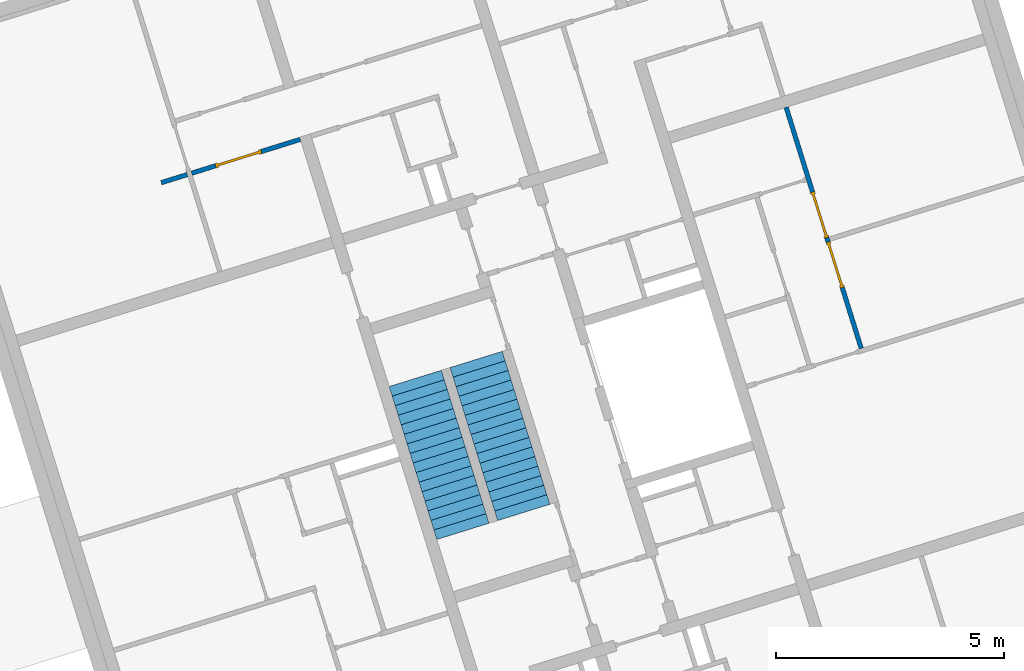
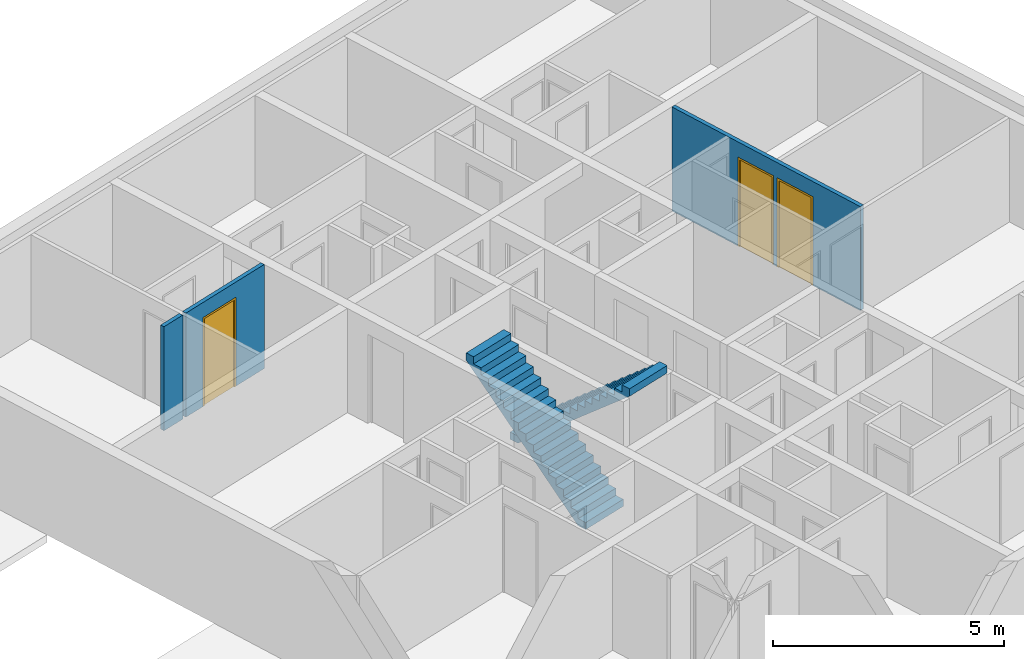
# One storey, part 9 of 9: 3 doors, 2 stair flights, 2 walls, 4 openings, 2 elements without a shape of their own.
"""IFC4 building model written with IfcOpenShell, lengths in metres."""

from ifc_helpers import new_model, entity, si_unit, converted_unit, direction, frame, origin, place, context, subcontext, project, spatial, indexed_curve, outline, extrude, polygons, source, transform, mapped, material, constituent, constituent_set, type_object, type_shapes, element, fill, aggregate, save


model = new_model("IFC4")

# Units and contexts
model_context = context("Model", 3, precision=1e-05, world=origin(), true_north=direction((6.12323399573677e-17, 1.0)))
body_context = subcontext(model_context, "Body", "Model", "MODEL_VIEW")
ifc_project = project(units=[si_unit("LENGTHUNIT", "METRE"), si_unit("AREAUNIT", "SQUARE_METRE"), converted_unit("PLANEANGLEUNIT", "DEGREE", entity("IfcPlaneAngleMeasure", 0.0174532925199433), si_unit("PLANEANGLEUNIT", "RADIAN"), dimensions=[0, 0, 0, 0, 0, 0, 0]), si_unit("VOLUMEUNIT", "CUBIC_METRE")], contexts=[model_context])

# Site, building, storey
site_placement = place(None, frame((13.1347999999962, 11.9886000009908, 0.0), z_axis=(0.0, 0.0, 1.0), x_axis=(0.954770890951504, 0.297342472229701, 0.0)))
site = spatial("IfcSite", under=ifc_project, at=site_placement, Name="Schiehaven", CompositionType="ELEMENT")
building_placement = place(site_placement, origin())
building = spatial("IfcBuilding", under=site, at=building_placement, Name="VORM huis", CompositionType="ELEMENT")
storey_placement = place(building_placement, frame((0.0, 0.0, 15.9)))
storey = spatial("IfcBuildingStorey", under=building, at=storey_placement, Name="05 vijfde verdieping", CompositionType="ELEMENT", Elevation=15.9)

# Wall, openings, door
ifc_material_1 = material(Name="ntb_ntb_ntb", Category="Miscellaneous")
wall_type = type_object("IfcWallType", Name="Basic Wall:22_WA_afbouw_binnenwand 100mm_gen", PredefinedType="STANDARD")
wall_1_placement = place(storey_placement, frame((64.8749999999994, 24.5750000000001, 0.0), z_axis=(0.0, 0.0, 1.0), x_axis=(-1.0, 0.0, 0.0)))
wall_1 = element("IfcWall", 1, at=wall_1_placement, inside=storey, type_object=wall_type, material=ifc_material_1, Name="Binnenwand", ObjectType="Wand", PredefinedType="NOTDEFINED", context=body_context, shape_type="Tessellation", body=[
    polygons([(1.78530300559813e-16, -0.0499999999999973, 2.75), (1.78530300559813e-16, -0.0499999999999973, 0.0), (0.899999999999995, -0.0499999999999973, 0.0), (0.899999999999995, -0.0499999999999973, 2.34999999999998), (1.95, -0.049999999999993, 2.34999999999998), (1.95, -0.049999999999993, 0.0), (2.49999999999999, -0.049999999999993, 0.0), (2.49999999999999, -0.049999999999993, 2.75), (1.69052121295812e-15, 0.0500000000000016, 0.0), (0.899999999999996, 0.0500000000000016, 0.0), (1.69052121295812e-15, 0.0500000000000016, 2.75), (1.95, 0.050000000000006, 2.34999999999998), (1.95, 0.050000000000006, 0.0), (0.899999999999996, 0.0500000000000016, 2.34999999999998), (2.5, 0.050000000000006, 0.0), (2.5, 0.050000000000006, 2.75)], [[[1, 2, 3, 4, 5, 6, 7, 8]], [[2, 9, 10, 3]], [[2, 1, 11, 9]], [[6, 5, 12, 13]], [[4, 3, 10, 14]], [[5, 4, 14, 12]], [[8, 7, 15, 16]], [[11, 1, 8, 16]], [[6, 13, 15, 7]], [[9, 11, 16, 15, 13, 12, 14, 10]]], closed=True),
    polygons([(3.2, 0.0500000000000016, 2.75), (3.2, 0.0500000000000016, 0.0), (2.60000000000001, 0.0500000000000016, 0.0), (2.60000000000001, 0.0500000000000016, 2.75), (3.2, -0.0499999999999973, 2.75), (3.2, -0.0499999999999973, 0.0), (2.60000000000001, -0.0499999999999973, 2.75), (2.60000000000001, -0.0499999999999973, 0.0)], [[[1, 2, 3, 4]], [[5, 6, 2, 1]], [[5, 1, 4, 7]], [[8, 7, 4, 3]], [[2, 6, 8, 3]], [[6, 5, 7, 8]]], closed=True),
])
opening_1_placement = place(storey_placement, frame((64.8749999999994, 24.5750000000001, 0.0), z_axis=(0.0, 0.0, 1.0), x_axis=(-1.0, 0.0, 0.0)))
element("IfcOpeningElement", 2, at=opening_1_placement, cuts=wall_1, Name="Binnenwand:1", PredefinedType="OPENING", context=body_context, shape_type="SweptSolid", body=[
    extrude(outline(indexed_curve([(-1.375, -0.0500000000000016), (1.375, -0.0500000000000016), (1.375, 0.0499999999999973), (-1.375, 0.0499999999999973), (-1.375, -0.0500000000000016)], self_intersect=False)), frame((2.60000000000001, 0.0, 1.375), z_axis=(-1.0, 0.0, 0.0), x_axis=(0.0, 0.0, 1.0)), (0.0, 0.0, 1.0), 0.100000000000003),
])
opening_2_placement = place(wall_1_placement, frame((1.94999999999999, 0.0500000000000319, 0.0)))
opening_2 = element("IfcOpeningElement", 3, at=opening_2_placement, cuts=wall_1, Name="Binnendeur", PredefinedType="OPENING", context=body_context, shape_type="SweptSolid", body=[
    extrude(outline(indexed_curve([(2.34999999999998, 0.0), (2.34999999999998, 1.05), (0.0, 1.05), (0.0, 0.0), (2.34999999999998, 0.0)], self_intersect=False)), frame((0.0, 0.0, 0.0), z_axis=(0.0, -1.0, 0.0), x_axis=(0.0, 0.0, 1.0)), (0.0, 0.0, 1.0), 0.1),
])
ifc_material_2 = material(Name="PD_a_binnenwandopeningen", Category="Miscellaneous")
ifc_constituent_1 = constituent(ifc_material_2, Name="PD_a_binnenwandopeningen", Category="Miscellaneous")
ifc_material_3 = material(Name="metaal_aluminium_ntb", Category="Miscellaneous")
ifc_constituent_2 = constituent(ifc_material_3, Name="metaal_aluminium_ntb", Category="Miscellaneous")
ifc_constituent_set_1 = constituent_set(constituents=[ifc_constituent_1, ifc_constituent_2])
ifc_constituent_3 = constituent(ifc_material_2, Name="PD_a_binnenwandopeningen", Category="Miscellaneous")
ifc_constituent_4 = constituent(ifc_material_3, Name="Panel", Category="Miscellaneous")
ifc_constituent_set_2 = constituent_set(constituents=[ifc_constituent_3, ifc_constituent_4])
door_type = type_object("IfcDoorType", Name="32_DO_binnendeur enkel:binnendeur", OperationType="REVOLVING", PredefinedType="DOOR", material=ifc_constituent_set_2)
shared_shape = source(origin(), body_context, "Body", "SweptSolid", [
    extrude(outline(indexed_curve([(0.475, -1.16249999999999), (0.525, -1.16249999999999), (0.525, 1.18749999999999), (-0.525, 1.18749999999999), (-0.525, -1.16249999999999), (-0.475, -1.16249999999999), (-0.475, 1.13749999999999), (0.475, 1.13749999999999), (0.475, -1.16249999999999)], self_intersect=False)), frame((0.525000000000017, 0.100000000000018, 1.16249999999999), z_axis=(0.0, -1.0, 0.0), x_axis=(1.0, 0.0, 0.0)), (0.0, 0.0, 1.0), 0.1),
    extrude(outline(indexed_curve([(-0.475, -0.025), (0.475, -0.025), (0.475, 0.025), (-0.475, 0.025), (-0.475, -0.025)], self_intersect=False)), frame((0.525000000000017, 0.0499999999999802, 0.0)), (0.0, 0.0, 1.0), 2.29999999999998),
])
type_shapes(door_type, [shared_shape])
door_1_placement = place(opening_2_placement, frame((0.0, 0.0, 0.0), z_axis=(0.0, 0.0, 1.0), x_axis=(-1.0, 0.0, 0.0)))
door_1 = element("IfcDoor", 4, at=door_1_placement, inside=storey, type_object=door_type, material=ifc_constituent_set_1, Name="Binnendeur", ObjectType="Deur", OperationType="REVOLVING", OverallHeight=2.34999999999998, OverallWidth=1.05, PredefinedType="DOOR", context=body_context, shape_type="MappedRepresentation", body=[
    mapped(shared_shape, transform((0.0, 0.0, 0.0), scale=1.0)),
])
fill(opening_2, door_1)

# Wall, openings, doors
wall_2_placement = place(storey_placement, frame((75.2749999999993, 22.075, 0.0), z_axis=(0.0, 0.0, 1.0), x_axis=(0.0, -1.0, 0.0)))
wall_2 = element("IfcWall", 5, at=wall_2_placement, inside=storey, type_object=wall_type, material=ifc_material_1, Name="Binnenwand", ObjectType="Wand", PredefinedType="NOTDEFINED", context=body_context, shape_type="Tessellation", body=[
    polygons([(3.00000000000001, -0.0500000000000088, 0.0), (3.10000000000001, -0.0500000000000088, 0.0), (3.10000000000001, -0.0500000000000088, 2.34999999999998), (4.15000000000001, -0.0500000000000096, 2.34999999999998), (4.15000000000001, -0.0500000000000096, 0.0), (5.55000000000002, -0.0500000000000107, 0.0), (5.55000000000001, -0.0500000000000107, 2.75), (1.70000000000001, -0.0500000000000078, 2.75), (1.60000000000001, -0.0500000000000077, 2.75), (0.0, -0.0500000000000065, 2.75), (0.0, -0.0500000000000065, 0.0), (1.60000000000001, -0.0500000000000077, 0.0), (1.70000000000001, -0.0500000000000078, 0.0), (1.95, -0.050000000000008, 0.0), (1.95000000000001, -0.050000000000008, 2.34999999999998), (3.00000000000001, -0.0500000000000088, 2.34999999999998), (3.10000000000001, 0.0500000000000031, 2.34999999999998), (3.10000000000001, 0.0500000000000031, 0.0), (3.00000000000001, 0.0500000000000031, 0.0), (3.00000000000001, 0.0500000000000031, 2.34999999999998), (1.95000000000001, 0.0500000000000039, 2.34999999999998), (1.95, 0.0500000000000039, 0.0), (0.0, 0.0500000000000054, 0.0), (0.0, 0.0500000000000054, 2.75), (3.00000000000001, 0.0499999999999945, 2.75), (3.10000000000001, 0.0499999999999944, 2.75), (5.55000000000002, 0.0500000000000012, 2.75), (5.55000000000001, 0.0500000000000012, 0.0), (4.15000000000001, 0.0500000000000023, 0.0), (4.15000000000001, 0.0500000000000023, 2.34999999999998)], [[[1, 2, 3, 4, 5, 6, 7, 8, 9, 10, 11, 12, 13, 14, 15, 16]], [[17, 18, 19, 20, 21, 22, 23, 24, 25, 26, 27, 28, 29, 30]], [[11, 23, 22, 14, 13, 12]], [[10, 9, 8, 7, 27, 26, 25, 24]], [[11, 10, 24, 23]], [[16, 20, 19, 1]], [[21, 15, 14, 22]], [[20, 16, 15, 21]], [[7, 6, 28, 27]], [[5, 4, 30, 29]], [[3, 2, 18, 17]], [[4, 3, 17, 30]], [[19, 18, 2, 1]], [[29, 28, 6, 5]]], closed=True),
])
opening_3_placement = place(wall_2_placement, frame((3.0, 0.0500000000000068, 0.0)))
opening_3 = element("IfcOpeningElement", 6, at=opening_3_placement, cuts=wall_2, Name="Binnendeur", PredefinedType="OPENING", context=body_context, shape_type="SweptSolid", body=[
    extrude(outline(indexed_curve([(2.34999999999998, 6.11348705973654e-31), (2.34999999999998, 1.05), (0.0, 1.05), (0.0, 6.11348705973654e-31), (2.34999999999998, 6.11348705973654e-31)], self_intersect=False)), frame((0.0, 0.0, 0.0), z_axis=(0.0, -1.0, 0.0), x_axis=(0.0, 0.0, 1.0)), (0.0, 0.0, 1.0), 0.1),
])
opening_4_placement = place(wall_2_placement, frame((4.15000000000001, 0.0500000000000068, 0.0)))
opening_4 = element("IfcOpeningElement", 7, at=opening_4_placement, cuts=wall_2, Name="Binnendeur", PredefinedType="OPENING", context=body_context, shape_type="SweptSolid", body=[
    extrude(outline(indexed_curve([(2.34999999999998, 1.08286712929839e-15), (2.34999999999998, 1.05), (0.0, 1.05), (0.0, 1.08286712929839e-15), (2.34999999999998, 1.08286712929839e-15)], self_intersect=False)), frame((0.0, 0.0, 0.0), z_axis=(0.0, -1.0, 0.0), x_axis=(0.0, 0.0, 1.0)), (0.0, 0.0, 1.0), 0.1),
])
ifc_constituent_5 = constituent(ifc_material_2, Name="PD_a_binnenwandopeningen", Category="Miscellaneous")
ifc_constituent_6 = constituent(ifc_material_3, Name="metaal_aluminium_ntb", Category="Miscellaneous")
ifc_constituent_set_3 = constituent_set(constituents=[ifc_constituent_5, ifc_constituent_6])
door_2_placement = place(opening_3_placement, frame((0.0, 0.0, 0.0), z_axis=(0.0, 0.0, 1.0), x_axis=(-1.0, 0.0, 0.0)))
door_2 = element("IfcDoor", 8, at=door_2_placement, inside=storey, type_object=door_type, material=ifc_constituent_set_3, Name="Binnendeur", ObjectType="Deur", OperationType="REVOLVING", OverallHeight=2.34999999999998, OverallWidth=1.05, PredefinedType="DOOR", context=body_context, shape_type="MappedRepresentation", body=[
    mapped(shared_shape, transform((0.0, 0.0, 0.0), scale=1.0)),
])
fill(opening_3, door_2)
ifc_constituent_7 = constituent(ifc_material_2, Name="PD_a_binnenwandopeningen", Category="Miscellaneous")
ifc_constituent_8 = constituent(ifc_material_3, Name="metaal_aluminium_ntb", Category="Miscellaneous")
ifc_constituent_set_4 = constituent_set(constituents=[ifc_constituent_7, ifc_constituent_8])
door_3_placement = place(opening_4_placement, frame((0.0, 0.0, 0.0), z_axis=(0.0, 0.0, 1.0), x_axis=(-1.0, 0.0, 0.0)))
door_3 = element("IfcDoor", 9, at=door_3_placement, inside=storey, type_object=door_type, material=ifc_constituent_set_4, Name="Binnendeur", ObjectType="Deur", OperationType="REVOLVING", OverallHeight=2.34999999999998, OverallWidth=1.05, PredefinedType="DOOR", context=body_context, shape_type="MappedRepresentation", body=[
    mapped(shared_shape, transform((0.0, 0.0, 0.0), scale=1.0)),
])
fill(opening_4, door_3)

# Stair, stair flight
stair_type = type_object("IfcStairType", Name="Trap", PredefinedType="STRAIGHT_RUN_STAIR")
stair_1_placement = place(storey_placement, origin())
stair_1 = element("IfcStair", 10, at=stair_1_placement, inside=storey, type_object=stair_type, Name="Hoofdtrap", ObjectType="Precast Stair:NLRS_24_STR_reguliere trap-woonfunctie-breedte 1200mm_gen", PredefinedType="STRAIGHT_RUN_STAIR")
ifc_material_4 = material(Name="beton_gewapend_prefab-element", Category="Miscellaneous")
stair_flight_type = type_object("IfcStairFlightType", Name="Monolithic Run:NLRS_24_STRR_trap-beton prefab-monolithisch-recht_gen_rsf", PredefinedType="STRAIGHT")
stair_flight_1_placement = place(stair_1_placement, frame((65.1250000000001, 15.2899999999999, 0.0)))
stair_flight_1 = element("IfcStairFlight", 11, at=stair_flight_1_placement, type_object=stair_flight_type, material=ifc_material_4, Name="Hoofdtrap Run 1", ObjectType="Monolithic Run:NLRS_24_STRR_trap-beton prefab-monolithisch-recht_gen_rsf", PredefinedType="STRAIGHT", context=body_context, shape_type="Tessellation", body=[
    polygons([(0.0, 0.219999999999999, 0.187500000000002), (0.0, 0.0, 0.187500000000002), (1.2, 0.0, 0.187500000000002), (1.2, 0.219999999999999, 0.187500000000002), (1.2, 0.0, 0.0), (1.2, 0.219999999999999, 0.0), (0.0, 0.0, 0.0), (0.0, 0.219999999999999, 0.0), (0.0, 0.44, 0.374999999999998), (0.0, 0.219999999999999, 0.374999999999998), (1.2, 0.219999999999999, 0.374999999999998), (1.2, 0.44, 0.374999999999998), (1.2, 0.231248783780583, 0.0), (1.2, 0.440000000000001, 0.177912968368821), (0.0, 0.440000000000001, 0.177912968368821), (0.0, 0.231248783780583, 0.0), (0.0, 0.659999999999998, 0.562499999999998), (0.0, 0.44, 0.562499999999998), (1.2, 0.44, 0.562499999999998), (1.2, 0.659999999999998, 0.562499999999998), (1.2, 0.66, 0.365412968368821), (0.0, 0.66, 0.365412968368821), (0.0, 0.879999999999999, 0.750000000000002), (0.0, 0.66, 0.750000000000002), (1.2, 0.66, 0.750000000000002), (1.2, 0.879999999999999, 0.750000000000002), (1.2, 0.880000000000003, 0.552912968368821), (0.0, 0.880000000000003, 0.552912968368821), (0.0, 1.1, 0.937499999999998), (0.0, 0.879999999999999, 0.937499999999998), (1.2, 0.879999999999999, 0.937499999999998), (1.2, 1.1, 0.937499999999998), (1.2, 1.1, 0.740412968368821), (0.0, 1.1, 0.740412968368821), (0.0, 1.32, 1.125), (0.0, 1.1, 1.125), (1.2, 1.1, 1.125), (1.2, 1.32, 1.125), (1.2, 1.32, 0.927912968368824), (0.0, 1.32, 0.927912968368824), (0.0, 1.54, 1.3125), (0.0, 1.32, 1.3125), (1.2, 1.32, 1.3125), (1.2, 1.54, 1.3125), (1.2, 1.54, 1.11541296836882), (0.0, 1.54, 1.11541296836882), (0.0, 1.76, 1.5), (0.0, 1.54, 1.5), (1.2, 1.54, 1.5), (1.2, 1.76, 1.5), (1.2, 1.76000000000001, 1.30291296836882), (0.0, 1.76000000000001, 1.30291296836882), (0.0, 1.98, 1.6875), (0.0, 1.76, 1.6875), (1.2, 1.76, 1.6875), (1.2, 1.98, 1.6875), (1.2, 1.98, 1.49041296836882), (0.0, 1.98, 1.49041296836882), (0.0, 2.2, 1.875), (0.0, 1.98, 1.875), (1.2, 1.98, 1.875), (1.2, 2.2, 1.875), (1.2, 2.2, 1.67791296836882), (0.0, 2.2, 1.67791296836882), (0.0, 2.42, 2.0625), (0.0, 2.2, 2.0625), (1.2, 2.2, 2.0625), (1.2, 2.42, 2.0625), (1.2, 2.42, 1.86541296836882), (0.0, 2.42, 1.86541296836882), (0.0, 2.64, 2.25), (0.0, 2.42, 2.25), (1.2, 2.42, 2.25), (1.2, 2.64, 2.25), (1.2, 2.64, 2.05291296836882), (0.0, 2.64, 2.05291296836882), (0.0, 2.86, 2.4375), (0.0, 2.64, 2.4375), (1.2, 2.64, 2.4375), (1.2, 2.86, 2.4375), (1.2, 2.86, 2.24041296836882), (0.0, 2.86, 2.24041296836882), (0.0, 3.08, 2.625), (0.0, 2.86, 2.625), (1.2, 2.86, 2.625), (1.2, 3.08, 2.625), (1.2, 3.08, 2.42791296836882), (0.0, 3.08, 2.42791296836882), (0.0, 3.3, 2.8125), (0.0, 3.08, 2.8125), (1.2, 3.08, 2.8125), (1.2, 3.3, 2.8125), (1.2, 3.3, 2.61541296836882), (0.0, 3.3, 2.61541296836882), (0.0, 3.52, 3.0), (0.0, 3.3, 3.0), (1.2, 3.3, 3.0), (1.2, 3.52, 3.0), (1.2, 3.52, 2.80291296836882), (0.0, 3.52, 2.80291296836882)], [[[1, 2, 3, 4]], [[4, 3, 5, 6]], [[3, 2, 7, 5]], [[2, 1, 8, 7]], [[9, 10, 11, 12]], [[4, 6, 13, 14, 12, 11]], [[1, 4, 11, 10]], [[8, 1, 10, 9, 15, 16]], [[17, 18, 19, 20]], [[20, 19, 12, 14, 21]], [[9, 12, 19, 18]], [[18, 17, 22, 15, 9]], [[23, 24, 25, 26]], [[26, 25, 20, 21, 27]], [[17, 20, 25, 24]], [[24, 23, 28, 22, 17]], [[29, 30, 31, 32]], [[32, 31, 26, 27, 33]], [[23, 26, 31, 30]], [[30, 29, 34, 28, 23]], [[35, 36, 37, 38]], [[38, 37, 32, 33, 39]], [[29, 32, 37, 36]], [[36, 35, 40, 34, 29]], [[41, 42, 43, 44]], [[44, 43, 38, 39, 45]], [[35, 38, 43, 42]], [[42, 41, 46, 40, 35]], [[47, 48, 49, 50]], [[50, 49, 44, 45, 51]], [[41, 44, 49, 48]], [[48, 47, 52, 46, 41]], [[53, 54, 55, 56]], [[56, 55, 50, 51, 57]], [[47, 50, 55, 54]], [[54, 53, 58, 52, 47]], [[59, 60, 61, 62]], [[62, 61, 56, 57, 63]], [[53, 56, 61, 60]], [[60, 59, 64, 58, 53]], [[65, 66, 67, 68]], [[68, 67, 62, 63, 69]], [[59, 62, 67, 66]], [[66, 65, 70, 64, 59]], [[71, 72, 73, 74]], [[74, 73, 68, 69, 75]], [[65, 68, 73, 72]], [[72, 71, 76, 70, 65]], [[77, 78, 79, 80]], [[80, 79, 74, 75, 81]], [[71, 74, 79, 78]], [[78, 77, 82, 76, 71]], [[83, 84, 85, 86]], [[86, 85, 80, 81, 87]], [[77, 80, 85, 84]], [[84, 83, 88, 82, 77]], [[89, 90, 91, 92]], [[92, 91, 86, 87, 93]], [[83, 86, 91, 90]], [[90, 89, 94, 88, 83]], [[95, 96, 97, 98]], [[98, 97, 92, 93, 99]], [[89, 92, 97, 96]], [[96, 95, 100, 94, 89]], [[95, 98, 99, 100]], [[7, 8, 16, 13, 6, 5]], [[13, 16, 15, 22, 28, 34, 40, 46, 52, 58, 64, 70, 76, 82, 88, 94, 100, 99, 93, 87, 81, 75, 69, 63, 57, 51, 45, 39, 33, 27, 21, 14]]], closed=True),
])
aggregate(stair_1, [stair_flight_1])

stair_2_placement = place(storey_placement, origin())
stair_2 = element("IfcStair", 12, at=stair_2_placement, inside=storey, type_object=stair_type, Name="Hoofdtrap", ObjectType="Precast Stair:NLRS_24_STR_reguliere trap-woonfunctie-breedte 1200mm_gen", PredefinedType="STRAIGHT_RUN_STAIR")
stair_flight_2_placement = place(stair_2_placement, frame((66.5250000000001, 15.2899999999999, 0.0)))
stair_flight_2 = element("IfcStairFlight", 13, at=stair_flight_2_placement, type_object=stair_flight_type, material=ifc_material_4, Name="Hoofdtrap Run 1", ObjectType="Monolithic Run:NLRS_24_STRR_trap-beton prefab-monolithisch-recht_gen_rsf", PredefinedType="STRAIGHT", context=body_context, shape_type="Tessellation", body=[
    polygons([(1.2, 3.3, 0.187500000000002), (1.2, 3.52, 0.187500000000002), (0.0, 3.52, 0.187500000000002), (0.0, 3.3, 0.187500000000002), (0.0, 3.52, 0.0), (0.0, 3.3, 0.0), (1.2, 3.52, 0.0), (1.2, 3.3, 0.0), (1.2, 3.08, 0.374999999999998), (1.2, 3.3, 0.374999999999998), (0.0, 3.3, 0.374999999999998), (0.0, 3.08, 0.374999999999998), (0.0, 3.28875121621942, -1.77635683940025e-15), (0.0, 3.08, 0.177912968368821), (1.2, 3.08, 0.177912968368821), (1.2, 3.28875121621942, -1.77635683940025e-15), (1.2, 2.86, 0.562499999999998), (1.2, 3.08, 0.562499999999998), (0.0, 3.08, 0.562499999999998), (0.0, 2.86, 0.562499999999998), (0.0, 2.86, 0.365412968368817), (1.2, 2.86, 0.365412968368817), (1.2, 2.64, 0.750000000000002), (1.2, 2.86, 0.750000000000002), (0.0, 2.86, 0.750000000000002), (0.0, 2.64, 0.750000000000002), (0.0, 2.64, 0.552912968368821), (1.2, 2.64, 0.552912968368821), (1.2, 2.42, 0.937499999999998), (1.2, 2.64, 0.937499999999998), (0.0, 2.64, 0.937499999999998), (0.0, 2.42, 0.937499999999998), (0.0, 2.42000000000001, 0.740412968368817), (1.2, 2.42000000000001, 0.740412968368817), (1.2, 2.2, 1.125), (1.2, 2.42, 1.125), (0.0, 2.42, 1.125), (0.0, 2.2, 1.125), (0.0, 2.2, 0.927912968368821), (1.2, 2.2, 0.927912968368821), (1.2, 1.98, 1.3125), (1.2, 2.2, 1.3125), (0.0, 2.2, 1.3125), (0.0, 1.98, 1.3125), (0.0, 1.98, 1.11541296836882), (1.2, 1.98, 1.11541296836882), (1.2, 1.76, 1.5), (1.2, 1.98, 1.5), (0.0, 1.98, 1.5), (0.0, 1.76, 1.5), (0.0, 1.76, 1.30291296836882), (1.2, 1.76, 1.30291296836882), (1.2, 1.54, 1.6875), (1.2, 1.76, 1.6875), (0.0, 1.76, 1.6875), (0.0, 1.54, 1.6875), (0.0, 1.54, 1.49041296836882), (1.2, 1.54, 1.49041296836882), (1.2, 1.32, 1.875), (1.2, 1.54, 1.875), (0.0, 1.54, 1.875), (0.0, 1.32, 1.875), (0.0, 1.32, 1.67791296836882), (1.2, 1.32, 1.67791296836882), (1.2, 1.1, 2.0625), (1.2, 1.32, 2.0625), (0.0, 1.32, 2.0625), (0.0, 1.1, 2.0625), (0.0, 1.1, 1.86541296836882), (1.2, 1.1, 1.86541296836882), (1.2, 0.879999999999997, 2.25), (1.2, 1.1, 2.25), (0.0, 1.1, 2.25), (0.0, 0.879999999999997, 2.25), (0.0, 0.880000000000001, 2.05291296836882), (1.2, 0.880000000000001, 2.05291296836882), (1.2, 0.659999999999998, 2.4375), (1.2, 0.880000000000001, 2.4375), (0.0, 0.880000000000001, 2.4375), (0.0, 0.659999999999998, 2.4375), (0.0, 0.660000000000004, 2.24041296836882), (1.2, 0.660000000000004, 2.24041296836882), (1.2, 0.44, 2.625), (1.2, 0.659999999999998, 2.625), (0.0, 0.659999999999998, 2.625), (0.0, 0.44, 2.625), (0.0, 0.440000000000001, 2.42791296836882), (1.2, 0.440000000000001, 2.42791296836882), (1.2, 0.219999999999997, 2.8125), (1.2, 0.439999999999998, 2.8125), (0.0, 0.439999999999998, 2.8125), (0.0, 0.219999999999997, 2.8125), (0.0, 0.219999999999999, 2.61541296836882), (1.2, 0.219999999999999, 2.61541296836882), (1.2, -1.77635683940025e-15, 3.0), (1.2, 0.219999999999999, 3.0), (0.0, 0.219999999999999, 3.0), (0.0, -1.77635683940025e-15, 3.0), (0.0, 1.77635683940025e-15, 2.80291296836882), (1.2, 1.77635683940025e-15, 2.80291296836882)], [[[1, 2, 3, 4]], [[4, 3, 5, 6]], [[3, 2, 7, 5]], [[2, 1, 8, 7]], [[9, 10, 11, 12]], [[4, 6, 13, 14, 12, 11]], [[1, 4, 11, 10]], [[8, 1, 10, 9, 15, 16]], [[17, 18, 19, 20]], [[20, 19, 12, 14, 21]], [[9, 12, 19, 18]], [[18, 17, 22, 15, 9]], [[23, 24, 25, 26]], [[26, 25, 20, 21, 27]], [[17, 20, 25, 24]], [[24, 23, 28, 22, 17]], [[29, 30, 31, 32]], [[32, 31, 26, 27, 33]], [[23, 26, 31, 30]], [[30, 29, 34, 28, 23]], [[35, 36, 37, 38]], [[38, 37, 32, 33, 39]], [[29, 32, 37, 36]], [[36, 35, 40, 34, 29]], [[41, 42, 43, 44]], [[44, 43, 38, 39, 45]], [[35, 38, 43, 42]], [[42, 41, 46, 40, 35]], [[47, 48, 49, 50]], [[50, 49, 44, 45, 51]], [[41, 44, 49, 48]], [[48, 47, 52, 46, 41]], [[53, 54, 55, 56]], [[56, 55, 50, 51, 57]], [[47, 50, 55, 54]], [[54, 53, 58, 52, 47]], [[59, 60, 61, 62]], [[62, 61, 56, 57, 63]], [[53, 56, 61, 60]], [[60, 59, 64, 58, 53]], [[65, 66, 67, 68]], [[68, 67, 62, 63, 69]], [[59, 62, 67, 66]], [[66, 65, 70, 64, 59]], [[71, 72, 73, 74]], [[74, 73, 68, 69, 75]], [[65, 68, 73, 72]], [[72, 71, 76, 70, 65]], [[77, 78, 79, 80]], [[80, 79, 74, 75, 81]], [[71, 74, 79, 78]], [[78, 77, 82, 76, 71]], [[83, 84, 85, 86]], [[86, 85, 80, 81, 87]], [[77, 80, 85, 84]], [[84, 83, 88, 82, 77]], [[89, 90, 91, 92]], [[92, 91, 86, 87, 93]], [[83, 86, 91, 90]], [[90, 89, 94, 88, 83]], [[95, 96, 97, 98]], [[98, 97, 92, 93, 99]], [[89, 92, 97, 96]], [[96, 95, 100, 94, 89]], [[95, 98, 99, 100]], [[7, 8, 16, 13, 6, 5]], [[13, 16, 15, 22, 28, 34, 40, 46, 52, 58, 64, 70, 76, 82, 88, 94, 100, 99, 93, 87, 81, 75, 69, 63, 57, 51, 45, 39, 33, 27, 21, 14]]], closed=True),
])
aggregate(stair_2, [stair_flight_2])

save(model, "model.ifc")
